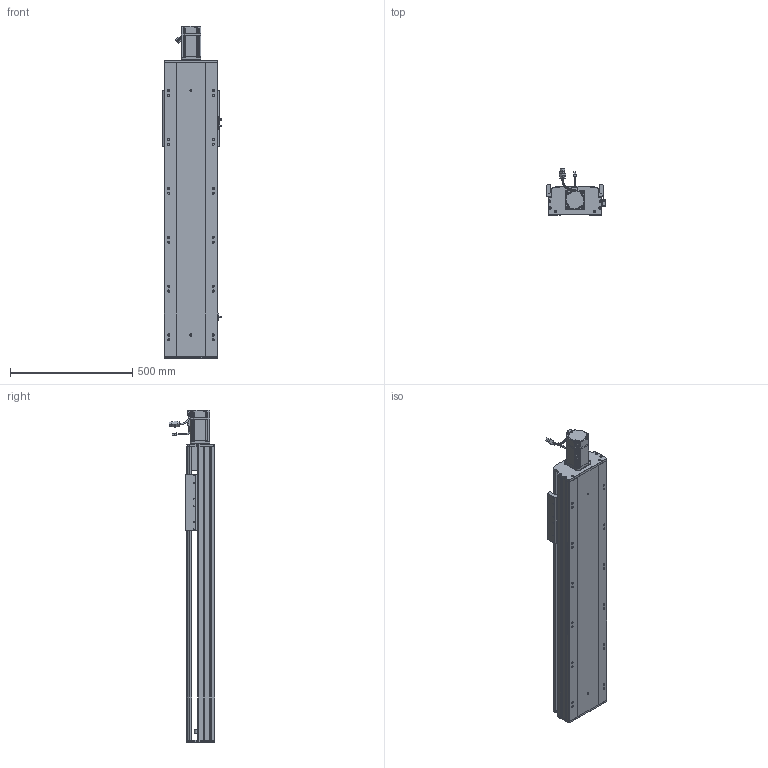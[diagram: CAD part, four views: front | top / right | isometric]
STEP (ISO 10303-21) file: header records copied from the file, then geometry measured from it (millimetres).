
FILE_DESCRIPTION (( 'STEP AP203' ), '1' );
FILE_NAME ('RY220-L2525-300-MK.SLDASM_800.step', '2022-07-04T02:57:42', ( '' ), ( '' ), 'SwSTEP 2.0', 'SolidWorks 2016', '' );
FILE_SCHEMA (( 'CONFIG_CONTROL_DESIGN' ));
Length unit declared in the file: millimetre
Products named in the file (12): RY220-俋离672覜茼んえ; RY220ヶ裔啣; 覜茼ん672; 怢湛750W_ECMA-CX0807ES; RY220菁釱MK-300_800; 滅袉蝶18-15; RY220-L2525-300-MK.SLDASM_800; RY220-300-奻裔啣-MK_800; RY220半封闭25-32螺母铝滑块; 滅袉蝶18-12; RY220电机支撑座FK20（PCD90M6）; RY220綴裔啣
Assembly tree (15 placements, depth 2):
  RY220-L2525-300-MK.SLDASM_800
    RY220菁釱MK-300_800
    RY220电机支撑座FK20（PCD90M6）
    怢湛750W_ECMA-CX0807ES
    滅袉蝶18-12  x2
    RY220ヶ裔啣
    RY220綴裔啣
    覜茼ん672  x3
    RY220半封闭25-32螺母铝滑块
    RY220-300-奻裔啣-MK_800
    RY220-俋离672覜茼んえ
    滅袉蝶18-15  x2
Bounding box: 238.7 x 187.27 x 1358.3 mm (x, y, z)
Volume: 11079593.8 mm3; surface area: 3010143.5 mm2
Topology: 16 solids, 16 shells, 2176 faces, 6026 edges, 3810 vertices
Faces by surface type: cylinder 970, plane 907, cone 237, bspline 36, sphere 16, torus 10
Entity records: 71426 total; most frequent: CARTESIAN_POINT 20333, ORIENTED_EDGE 10616, DIRECTION 10007, EDGE_CURVE 5308, AXIS2_PLACEMENT_3D 3509, VERTEX_POINT 3466, VECTOR 2989, LINE 2989
